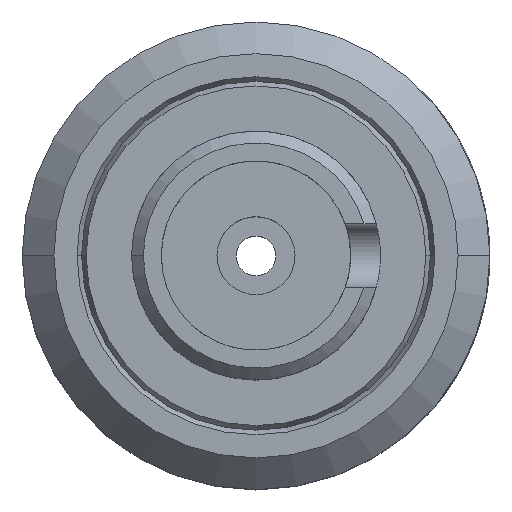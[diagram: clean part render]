
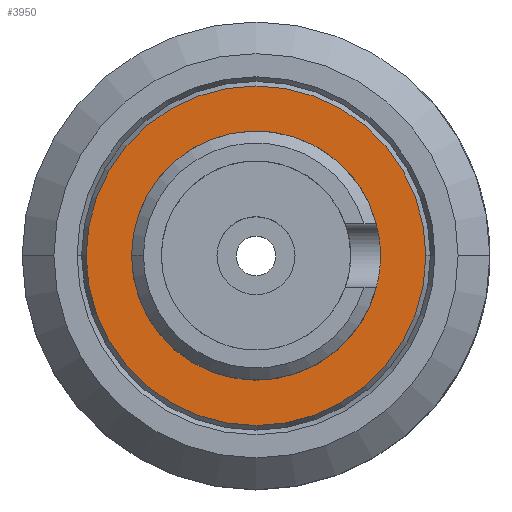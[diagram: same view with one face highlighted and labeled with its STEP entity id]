
A CAD part, top view. The second image highlights one B-rep face of the part: STEP entity #3950.
In plain terms, the highlighted planar face has unit normal (0, 0, 1).
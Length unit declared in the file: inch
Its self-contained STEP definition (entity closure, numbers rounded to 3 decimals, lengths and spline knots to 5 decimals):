
#173 = AXIS2_PLACEMENT_3D ( 'NONE', #4760, #7440, #302 ) ;
#302 = DIRECTION ( 'NONE',  ( 1., 0., 0. ) ) ;
#805 = CARTESIAN_POINT ( 'NONE',  ( 1.16939, 0.9302, -1.11411 ) ) ;
#941 = DIRECTION ( 'NONE',  ( 0., 0., 1. ) ) ;
#1216 = DIRECTION ( 'NONE',  ( 0., 0., 1. ) ) ;
#1381 = EDGE_CURVE ( 'NONE', #2433, #3452, #2888, .T. ) ;
#1941 = EDGE_LOOP ( 'NONE', ( #6235, #6397 ) ) ;
#2116 = CIRCLE ( 'NONE', #173, 0.142 ) ;
#2211 = CARTESIAN_POINT ( 'NONE',  ( 1.02739, 0.9302, -1.11411 ) ) ;
#2223 = AXIS2_PLACEMENT_3D ( 'NONE', #5853, #3280, #3167 ) ;
#2257 = FACE_OUTER_BOUND ( 'NONE', #1941, .T. ) ;
#2409 = DIRECTION ( 'NONE',  ( 1., 0., 0. ) ) ;
#2433 = VERTEX_POINT ( 'NONE', #805 ) ;
#2491 = CIRCLE ( 'NONE', #4607, 0.21423 ) ;
#2519 = EDGE_CURVE ( 'NONE', #3452, #2433, #2116, .T. ) ;
#2530 = ORIENTED_EDGE ( 'NONE', *, *, #1381, .F. ) ;
#2888 = CIRCLE ( 'NONE', #2956, 0.142 ) ;
#2956 = AXIS2_PLACEMENT_3D ( 'NONE', #2211, #941, #4740 ) ;
#3089 = CARTESIAN_POINT ( 'NONE',  ( 1.02739, 0.9302, -1.11411 ) ) ;
#3167 = DIRECTION ( 'NONE',  ( 1., 0., 0. ) ) ;
#3280 = DIRECTION ( 'NONE',  ( 0., 0., 1. ) ) ;
#3452 = VERTEX_POINT ( 'NONE', #6972 ) ;
#3878 = EDGE_CURVE ( 'NONE', #7845, #7404, #3971, .T. ) ;
#3950 = ADVANCED_FACE ( 'NONE', ( #5686, #2257 ), #4830, .F. ) ;
#3971 = CIRCLE ( 'NONE', #2223, 0.21423 ) ;
#4607 = AXIS2_PLACEMENT_3D ( 'NONE', #3089, #1216, #2409 ) ;
#4740 = DIRECTION ( 'NONE',  ( 1., 0., 0. ) ) ;
#4749 = EDGE_CURVE ( 'NONE', #7404, #7845, #2491, .T. ) ;
#4760 = CARTESIAN_POINT ( 'NONE',  ( 1.02739, 0.9302, -1.11411 ) ) ;
#4771 = DIRECTION ( 'NONE',  ( -1., 0., 0. ) ) ;
#4830 = PLANE ( 'NONE',  #8290 ) ;
#5686 = FACE_BOUND ( 'NONE', #8333, .T. ) ;
#5797 = ORIENTED_EDGE ( 'NONE', *, *, #2519, .F. ) ;
#5853 = CARTESIAN_POINT ( 'NONE',  ( 1.02739, 0.9302, -1.11411 ) ) ;
#6235 = ORIENTED_EDGE ( 'NONE', *, *, #4749, .T. ) ;
#6397 = ORIENTED_EDGE ( 'NONE', *, *, #3878, .T. ) ;
#6763 = CARTESIAN_POINT ( 'NONE',  ( 0.81316, 0.9302, -1.11411 ) ) ;
#6765 = CARTESIAN_POINT ( 'NONE',  ( 1.02739, 1.0722, -1.11411 ) ) ;
#6972 = CARTESIAN_POINT ( 'NONE',  ( 0.88539, 0.9302, -1.11411 ) ) ;
#7021 = CARTESIAN_POINT ( 'NONE',  ( 1.24162, 0.9302, -1.11411 ) ) ;
#7404 = VERTEX_POINT ( 'NONE', #6763 ) ;
#7412 = DIRECTION ( 'NONE',  ( 0., 0., -1. ) ) ;
#7440 = DIRECTION ( 'NONE',  ( 0., 0., 1. ) ) ;
#7845 = VERTEX_POINT ( 'NONE', #7021 ) ;
#8290 = AXIS2_PLACEMENT_3D ( 'NONE', #6765, #7412, #4771 ) ;
#8333 = EDGE_LOOP ( 'NONE', ( #2530, #5797 ) ) ;
